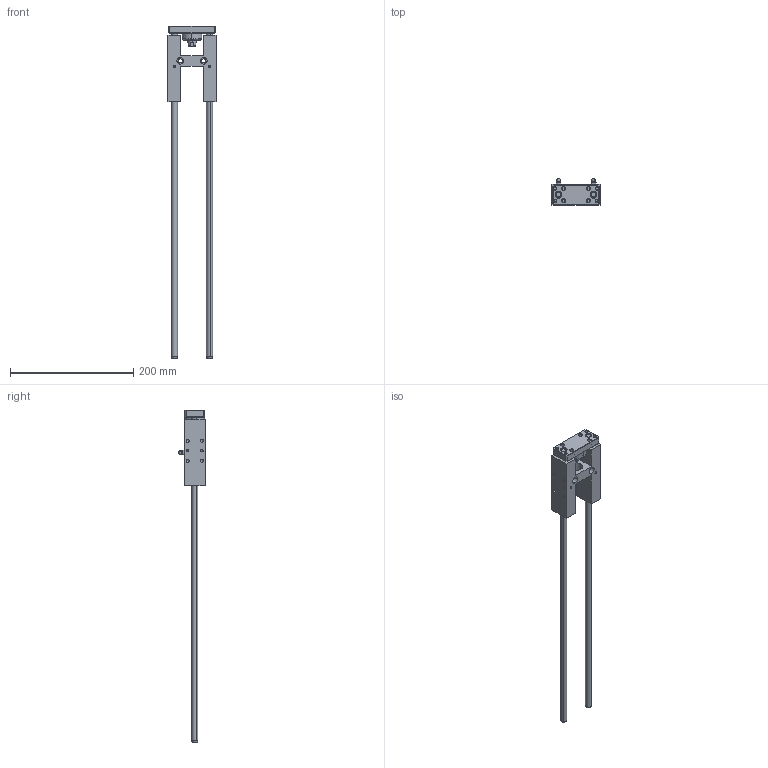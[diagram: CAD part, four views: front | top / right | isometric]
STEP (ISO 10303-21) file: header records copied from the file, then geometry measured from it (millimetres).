
FILE_DESCRIPTION (( 'STEP AP214' ), '1' );
FILE_NAME ('WHCB-025-0400 (3D).STEP', '2018-12-25T08:44:51', ( 'Hidtek' ), ( '' ), 'SwSTEP 2.0', 'SolidWorks 2016', '' );
FILE_SCHEMA (( 'AUTOMOTIVE_DESIGN' ));
Length unit declared in the file: millimetre
Products named in the file (4): Group2^WHCB-025-0400 (3D); WHCB-025-0400 (3D); Group1^WHCB-025-0400 (3D); Group3^WHCB-025-0400 (3D)
Assembly tree (3 placements, depth 2):
  WHCB-025-0400 (3D)
    Group1^WHCB-025-0400 (3D)
    Group2^WHCB-025-0400 (3D)
    Group3^WHCB-025-0400 (3D)
Bounding box: 78 x 43.05 x 539 mm (x, y, z)
Volume: 279292.1 mm3; surface area: 82741.4 mm2
Topology: 14 solids, 14 shells, 635 faces, 1572 edges, 984 vertices
Faces by surface type: plane 325, cylinder 120, bspline 96, cone 94
Entity records: 25703 total; most frequent: CARTESIAN_POINT 8773, ORIENTED_EDGE 3056, DIRECTION 2784, EDGE_CURVE 1528, VERTEX_POINT 984, LINE 962, VECTOR 962, AXIS2_PLACEMENT_3D 911
